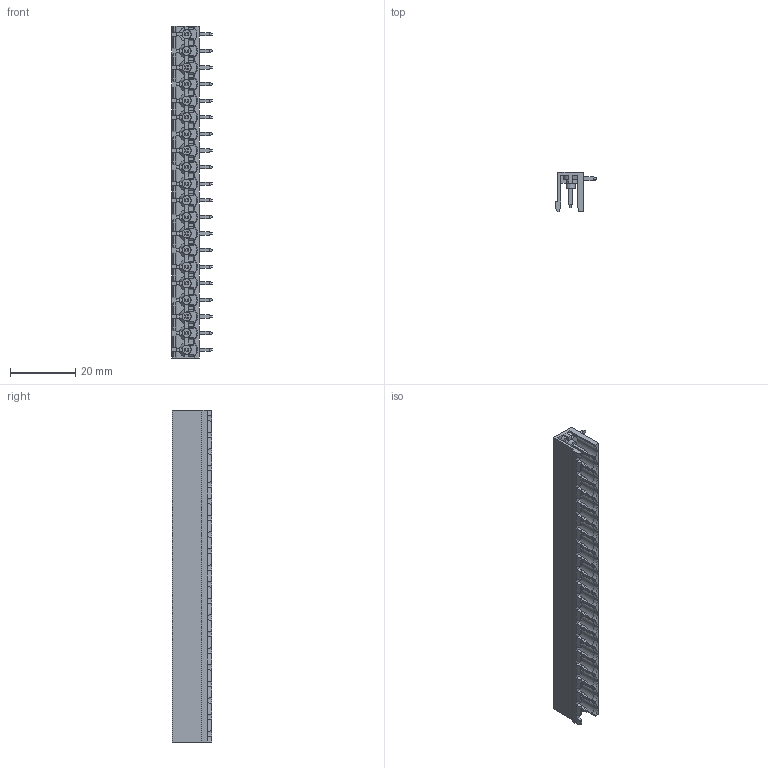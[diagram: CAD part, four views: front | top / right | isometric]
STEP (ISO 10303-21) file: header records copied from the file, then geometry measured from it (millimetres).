
FILE_DESCRIPTION (( 'STEP AP203' ), '1' );
FILE_NAME ('BR8MN1-20.STEP', '2020-03-18T03:13:24', ( '' ), ( '' ), 'SwSTEP 2.0', 'SolidWorks 2019', '' );
FILE_SCHEMA (( 'CONFIG_CONTROL_DESIGN' ));
Length unit declared in the file: millimetre
Products named in the file (1): BR8MN1-20
Bounding box: 12.5 x 12 x 101.6 mm (x, y, z)
Volume: 3878 mm3; surface area: 8629.2 mm2
Topology: 1 solids, 1 shells, 1679 faces, 4374 edges, 2697 vertices
Faces by surface type: plane 1441, cylinder 101, cone 97, sphere 40
Entity records: 49868 total; most frequent: CARTESIAN_POINT 9536, ORIENTED_EDGE 8588, DIRECTION 7861, EDGE_CURVE 4294, LINE 3661, VECTOR 3661, VERTEX_POINT 2657, AXIS2_PLACEMENT_3D 2100
